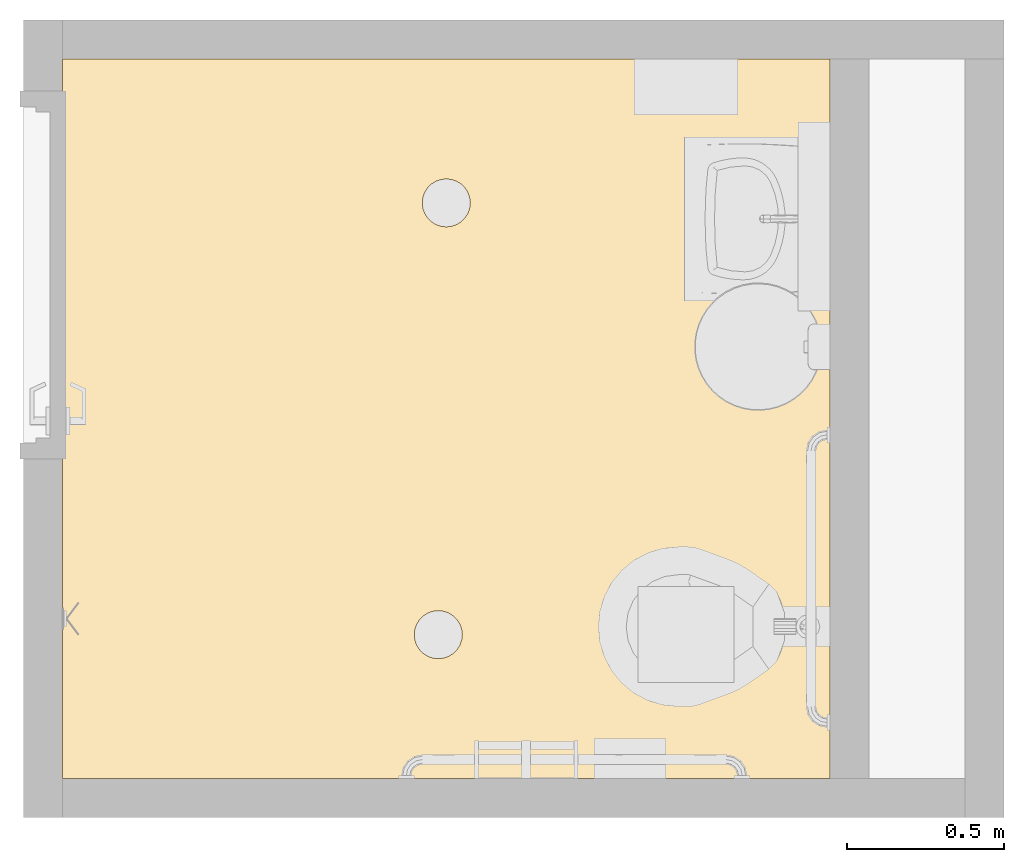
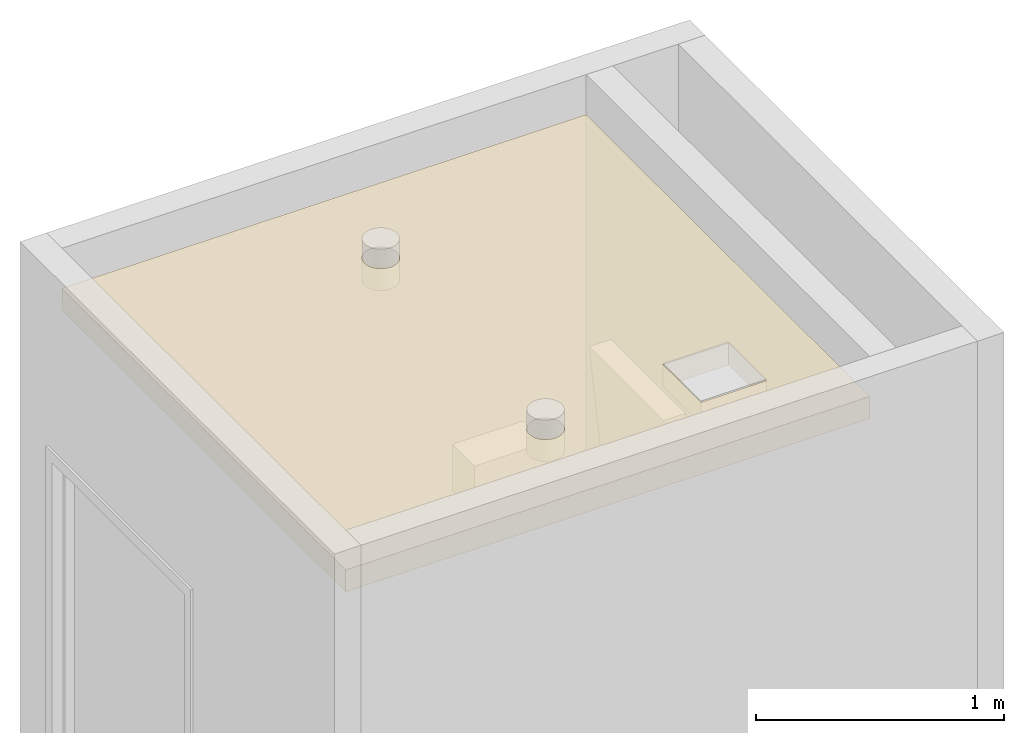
# One storey, part 3 of 7: 1 covering.
"""IFC2X3 building model written with IfcOpenShell, lengths in feet."""

from ifc_helpers import new_model, entity, si_unit, converted_unit, derived_unit, direction, frame, frame_2d, origin, place, context, subcontext, project, spatial, polyline, circle_curve, parameter, trimmed, segment, composite_curve, outline, extrude, material, layer, layer_set, layer_usage, element, save


model = new_model("IFC2X3")

# Units and contexts
model_context = context("Model", 3, precision=0.0001, world=origin(), true_north=direction((6.12303176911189e-17, 1.0)))
body_context = subcontext(model_context, "Body", "Model", "MODEL_VIEW")
ifc_project = project(units=[converted_unit("LENGTHUNIT", "FOOT", entity("IfcRatioMeasure", 0.3048), si_unit("LENGTHUNIT", "METRE"), dimensions=[1, 0, 0, 0, 0, 0, 0]), converted_unit("AREAUNIT", "SQUARE FOOT", entity("IfcRatioMeasure", 0.09290304), si_unit("AREAUNIT", "SQUARE_METRE"), dimensions=[2, 0, 0, 0, 0, 0, 0]), converted_unit("VOLUMEUNIT", "CUBIC FOOT", entity("IfcRatioMeasure", 0.028316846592), si_unit("VOLUMEUNIT", "CUBIC_METRE"), dimensions=[3, 0, 0, 0, 0, 0, 0]), converted_unit("PLANEANGLEUNIT", "DEGREE", entity("IfcRatioMeasure", 0.0174532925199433), si_unit("PLANEANGLEUNIT", "RADIAN"), dimensions=[0, 0, 0, 0, 0, 0, 0]), si_unit("MASSUNIT", "GRAM", prefix="KILO"), derived_unit("MASSDENSITYUNIT", [(si_unit("MASSUNIT", "GRAM", prefix="KILO"), 1), (si_unit("LENGTHUNIT", "METRE"), -3)]), si_unit("TIMEUNIT", "SECOND"), si_unit("FREQUENCYUNIT", "HERTZ"), si_unit("THERMODYNAMICTEMPERATUREUNIT", "DEGREE_CELSIUS"), derived_unit("THERMALTRANSMITTANCEUNIT", [(si_unit("MASSUNIT", "GRAM", prefix="KILO"), 1), (si_unit("THERMODYNAMICTEMPERATUREUNIT", "KELVIN"), -1), (si_unit("TIMEUNIT", "SECOND"), -3)]), derived_unit("VOLUMETRICFLOWRATEUNIT", [(si_unit("LENGTHUNIT", "METRE"), 3), (si_unit("TIMEUNIT", "SECOND"), -1)]), si_unit("ELECTRICCURRENTUNIT", "AMPERE"), si_unit("ELECTRICVOLTAGEUNIT", "VOLT"), si_unit("POWERUNIT", "WATT"), si_unit("FORCEUNIT", "NEWTON"), si_unit("ILLUMINANCEUNIT", "LUX"), si_unit("LUMINOUSFLUXUNIT", "LUMEN"), si_unit("LUMINOUSINTENSITYUNIT", "CANDELA"), derived_unit("USERDEFINED", [(si_unit("MASSUNIT", "GRAM", prefix="KILO"), -1), (si_unit("LENGTHUNIT", "METRE"), -2), (si_unit("TIMEUNIT", "SECOND"), 3), (si_unit("LUMINOUSFLUXUNIT", "LUMEN"), 1)]), derived_unit("LINEARVELOCITYUNIT", [(si_unit("LENGTHUNIT", "METRE"), 1), (si_unit("TIMEUNIT", "SECOND"), -1)]), si_unit("PRESSUREUNIT", "PASCAL"), derived_unit("USERDEFINED", [(si_unit("LENGTHUNIT", "METRE"), -2), (si_unit("MASSUNIT", "GRAM", prefix="KILO"), 1), (si_unit("TIMEUNIT", "SECOND"), -2)])], contexts=[model_context])

# Site, building, storey
site_placement = place(None, origin())
site = spatial("IfcSite", under=ifc_project, at=site_placement, Name="Default", CompositionType="ELEMENT")
building_placement = place(site_placement, origin())
building = spatial("IfcBuilding", under=site, at=building_placement, Name="OUTPATIENT / PACT CLINIC (Ch. 265)", CompositionType="ELEMENT")
storey_placement = place(building_placement, origin())
storey = spatial("IfcBuildingStorey", under=building, at=storey_placement, Name="DATUM", CompositionType="ELEMENT", Elevation=0.0)

# Covering
ifc_material_1 = material(Name="<Unnamed>")
ifc_layer_1 = layer(ifc_material_1, 0.302083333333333)
ifc_material_2 = material(Name="gyp ceiling")
ifc_layer_2 = layer(ifc_material_2, 0.0520833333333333)
ifc_layer_set = layer_set([ifc_layer_1, ifc_layer_2], Name="Compound Ceiling:GWB on Mtl. Stud")
ifc_layer_usage = layer_usage(ifc_layer_set, "AXIS3", "POSITIVE", 0.0)
covering_placement = place(storey_placement, origin())
element("IfcCovering", 1, at=covering_placement, inside=storey, material=ifc_layer_usage, Name="Compound Ceiling:GWB on Mtl. Stud", ObjectType="Compound Ceiling:GWB on Mtl. Stud", PredefinedType="CEILING", context=body_context, shape_type="SweptSolid", body=[
    extrude(outline(polyline([(-3.74999999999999, -4.0), (3.75000000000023, -4.0), (3.75000000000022, 4.0), (-3.75000000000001, 4.0), (-3.74999999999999, -4.0)]), holes=[polyline([(-2.75, -2.0), (-1.75, -2.0), (-1.74999999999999, -3.0), (-2.74999999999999, -3.0), (-2.75, -2.0)]), composite_curve([segment(trimmed(circle_curve(frame_2d((2.25000000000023, 0.0), x_axis=(0.0, -1.0)), 0.25), [parameter(180.0)], [parameter(0.0)], True, "PARAMETER"), False, "CONTINUOUS"), segment(trimmed(circle_curve(frame_2d((2.25000000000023, 0.0), x_axis=(0.0, -1.0)), 0.25), [parameter(0.0)], [parameter(180.0)], True, "PARAMETER"), False, "CONTINUOUS")], self_intersect=False), composite_curve([segment(trimmed(circle_curve(frame_2d((-2.25, 0.0833333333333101), x_axis=(0.0, -1.0)), 0.25), [parameter(180.0)], [parameter(0.0)], True, "PARAMETER"), False, "CONTINUOUS"), segment(trimmed(circle_curve(frame_2d((-2.25, 0.0833333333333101), x_axis=(0.0, -1.0)), 0.25), [parameter(0.0)], [parameter(180.0)], True, "PARAMETER"), False, "CONTINUOUS")], self_intersect=False)]), frame((101.393588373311, -857.408656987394, 9.0), z_axis=(0.0, 0.0, 1.0), x_axis=(0.0, 1.0, 0.0)), (0.0, 0.0, 1.0), 0.354166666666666),
])

save(model, "model.ifc")
